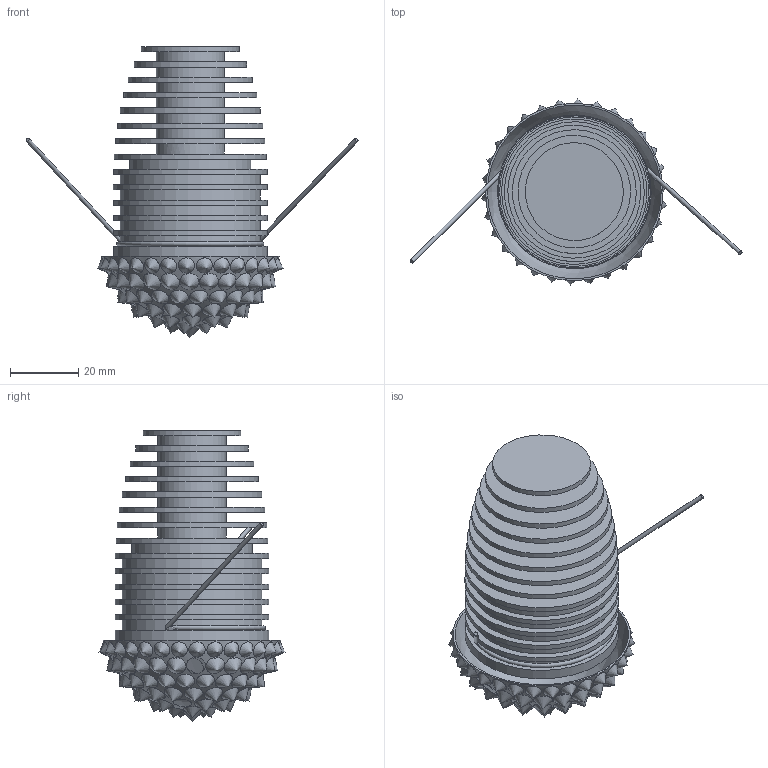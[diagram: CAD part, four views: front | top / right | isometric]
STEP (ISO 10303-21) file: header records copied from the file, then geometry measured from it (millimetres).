
FILE_DESCRIPTION(/* description */ (''),/* implementation_level */ '2;1');
FILE_NAME(/* name */ 'C:/Users/elena/Desktop/Kiwi Ghianda.step',/* time_stamp */ '2020-06-18T15:15:12+02:00',/* author */ (''),/* organization */ (''),/* preprocessor_version */ 'ST-DEVELOPER v18.1',/* originating_system */ 'Autodesk Translation Framework v9.3.0.1241',/* authorisation */ '');
FILE_SCHEMA (('AUTOMOTIVE_DESIGN { 1 0 10303 214 3 1 1 }'));
Length unit declared in the file: millimetre
Products named in the file (1): (Unsaved)
Bounding box: 97.33 x 54.56 x 85.27 mm (x, y, z)
Volume: 38666.5 mm3; surface area: 36524.4 mm2
Topology: 3 solids, 6 shells, 239 faces, 760 edges, 524 vertices
Faces by surface type: cone 109, plane 93, cylinder 34, bspline 2, torus 1
Full cylindrical faces by diameter (mm): 1.2 x2, 3 x3, 5 x1, 20 x7, 28.712 x1, 32.995 x1, 35.5 x1, 36.333 x1, 38.971 x1, 39 x1, 41 x5, 41.044 x1, 42.634 x1, 43.794 x1, 44.557 x1, 45 x5, 45.088 x1
Entity records: 12417 total; most frequent: CARTESIAN_POINT 6436, ORIENTED_EDGE 1308, DIRECTION 1025, EDGE_CURVE 654, VERTEX_POINT 526, AXIS2_PLACEMENT_3D 427, EDGE_LOOP 338, B_SPLINE_CURVE_WITH_KNOTS 288
